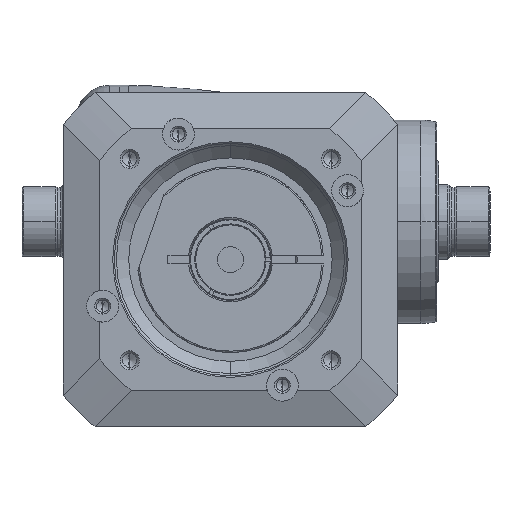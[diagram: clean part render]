
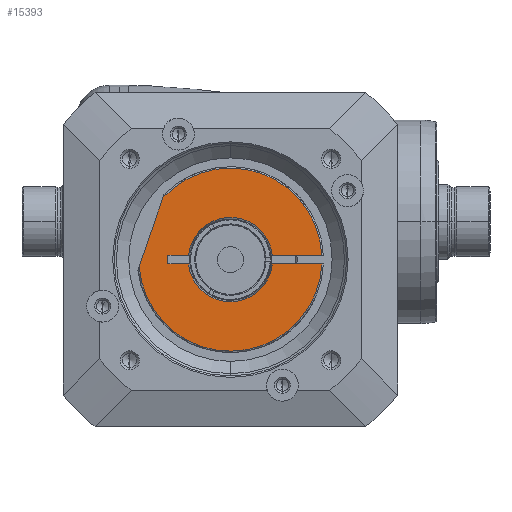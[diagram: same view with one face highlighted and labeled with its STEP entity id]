
A CAD part, front view. The second image highlights one B-rep face of the part: STEP entity #15393.
In plain terms, the highlighted planar face has unit normal (0, -1, 0) as drawn and (-1, 0, 0) by its records, which use the part's own axes.
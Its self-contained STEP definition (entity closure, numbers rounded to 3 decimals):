
#14830=DIRECTION('',(0.,0.946,0.326));
#14831=VECTOR('',#14830,25.063);
#14832=CARTESIAN_POINT('',(-13.,-21.258,23.246));
#14833=LINE('',#14832,#14831);
#14834=DIRECTION('',(0.,0.,1.));
#14835=VECTOR('',#14834,17.042);
#14836=CARTESIAN_POINT('',(-13.,-1.5,-31.464));
#14837=LINE('',#14836,#14835);
#14838=DIRECTION('',(0.,0.,1.));
#14839=VECTOR('',#14838,7.078);
#14840=CARTESIAN_POINT('',(-13.,-1.5,14.422));
#14841=LINE('',#14840,#14839);
#14842=DIRECTION('',(0.,-1.,0.));
#14843=VECTOR('',#14842,3.);
#14844=CARTESIAN_POINT('',(-13.,1.5,21.5));
#14845=LINE('',#14844,#14843);
#14846=DIRECTION('',(0.,0.,1.));
#14847=VECTOR('',#14846,7.078);
#14848=CARTESIAN_POINT('',(-13.,1.5,14.422));
#14849=LINE('',#14848,#14847);
#14850=DIRECTION('',(0.,0.,1.));
#14851=VECTOR('',#14850,17.042);
#14852=CARTESIAN_POINT('',(-13.,1.5,-31.464));
#14853=LINE('',#14852,#14851);
#14868=CARTESIAN_POINT('',(-13.,0.,0.));
#14869=DIRECTION('',(-1.,0.,0.));
#14870=DIRECTION('',(0.,0.077,0.997));
#14871=AXIS2_PLACEMENT_3D('',#14868,#14869,#14870);
#14914=CARTESIAN_POINT('',(-13.,0.,0.));
#14915=DIRECTION('',(-1.,0.,0.));
#14916=DIRECTION('',(0.,-0.048,-0.999));
#14917=AXIS2_PLACEMENT_3D('',#14914,#14915,#14916);
#14941=CARTESIAN_POINT('',(-13.,0.,0.));
#14942=DIRECTION('',(1.,0.,0.));
#14943=DIRECTION('',(0.,-0.103,0.995));
#14944=AXIS2_PLACEMENT_3D('',#14941,#14942,#14943);
#14953=CARTESIAN_POINT('',(-13.,0.,0.));
#14954=DIRECTION('',(1.,0.,0.));
#14955=DIRECTION('',(0.,0.103,-0.995));
#14956=AXIS2_PLACEMENT_3D('',#14953,#14954,#14955);
#15276=CARTESIAN_POINT('',(-13.,-1.5,-31.464));
#15277=CARTESIAN_POINT('',(-13.,-1.5,-14.422));
#15278=VERTEX_POINT('',#15276);
#15279=VERTEX_POINT('',#15277);
#15280=CARTESIAN_POINT('',(-13.,1.5,-31.464));
#15281=CARTESIAN_POINT('',(-13.,1.5,-14.422));
#15282=VERTEX_POINT('',#15280);
#15283=VERTEX_POINT('',#15281);
#15326=CARTESIAN_POINT('',(-13.,1.5,21.5));
#15327=CARTESIAN_POINT('',(-13.,-1.5,21.5));
#15328=VERTEX_POINT('',#15326);
#15329=VERTEX_POINT('',#15327);
#15330=CARTESIAN_POINT('',(-13.,-1.5,14.422));
#15331=VERTEX_POINT('',#15330);
#15332=CARTESIAN_POINT('',(-13.,1.5,14.422));
#15333=VERTEX_POINT('',#15332);
#15350=CARTESIAN_POINT('',(-13.,-21.258,23.246));
#15351=CARTESIAN_POINT('',(-13.,2.44,31.405));
#15352=VERTEX_POINT('',#15350);
#15353=VERTEX_POINT('',#15351);
#15366=CARTESIAN_POINT('',(-13.,0.,0.));
#15367=DIRECTION('',(1.,0.,0.));
#15368=DIRECTION('',(0.,-1.,0.));
#15369=AXIS2_PLACEMENT_3D('',#15366,#15367,#15368);
#15370=PLANE('',#15369);
#15372=ORIENTED_EDGE('',*,*,#15371,.F.);
#15374=ORIENTED_EDGE('',*,*,#15373,.F.);
#15376=ORIENTED_EDGE('',*,*,#15375,.T.);
#15378=ORIENTED_EDGE('',*,*,#15377,.F.);
#15380=ORIENTED_EDGE('',*,*,#15379,.T.);
#15382=ORIENTED_EDGE('',*,*,#15381,.F.);
#15384=ORIENTED_EDGE('',*,*,#15383,.F.);
#15386=ORIENTED_EDGE('',*,*,#15385,.F.);
#15388=ORIENTED_EDGE('',*,*,#15387,.F.);
#15390=ORIENTED_EDGE('',*,*,#15389,.F.);
#15391=EDGE_LOOP('',(#15372,#15374,#15376,#15378,#15380,#15382,#15384,#15386,
#15388,#15390));
#15392=FACE_OUTER_BOUND('',#15391,.F.);
#15393=ADVANCED_FACE('',(#15392),#15370,.F.);
#14872=CIRCLE('',#14871,31.5);
#14918=CIRCLE('',#14917,31.5);
#14945=CIRCLE('',#14944,14.5);
#14957=CIRCLE('',#14956,14.5);
#15371=EDGE_CURVE('',#15352,#15353,#14833,.T.);
#15373=EDGE_CURVE('',#15278,#15352,#14918,.T.);
#15375=EDGE_CURVE('',#15278,#15279,#14837,.T.);
#15377=EDGE_CURVE('',#15331,#15279,#14945,.T.);
#15379=EDGE_CURVE('',#15331,#15329,#14841,.T.);
#15381=EDGE_CURVE('',#15328,#15329,#14845,.T.);
#15383=EDGE_CURVE('',#15333,#15328,#14849,.T.);
#15385=EDGE_CURVE('',#15283,#15333,#14957,.T.);
#15387=EDGE_CURVE('',#15282,#15283,#14853,.T.);
#15389=EDGE_CURVE('',#15353,#15282,#14872,.T.);
